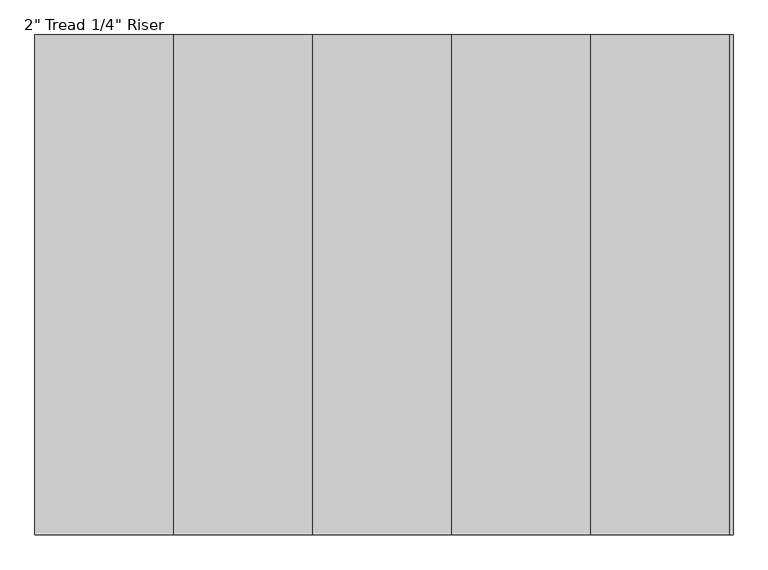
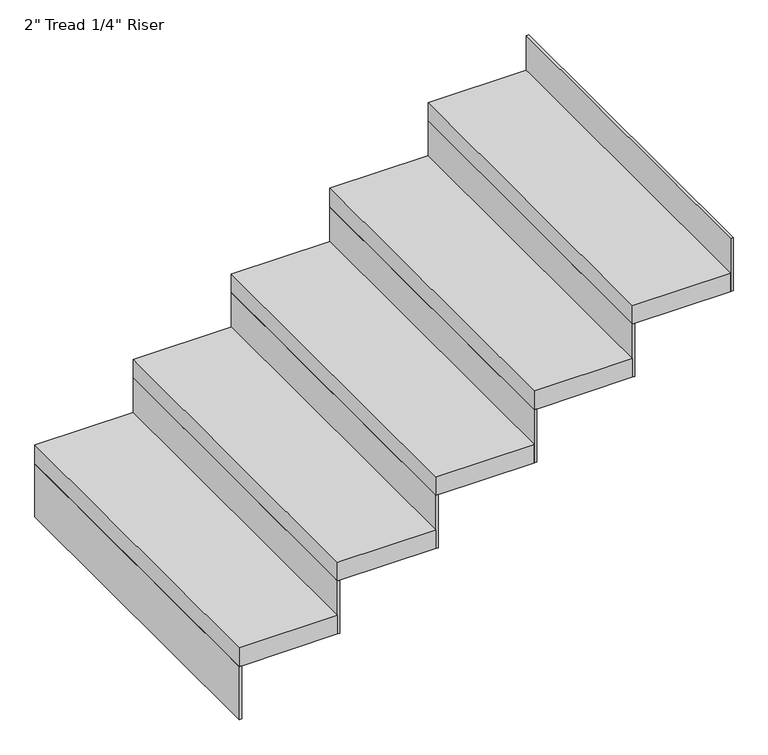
"""IFC4 building model written with IfcOpenShell, lengths in millimetres: stair flight geometry."""

from ifc_helpers import new_model, si_unit, frame, origin, place, context, project, spatial, polyline, outline, extrude, source, transform, mapped, element, save


def stair_flight_44e7a53b(model_context):
    return source(origin(), model_context, "Body", "SweptSolid", [
        extrude(outline(polyline([(162625.1811068, -2400.7855758), (162618.8311068, -2400.7855758), (162618.8311068, -1486.3855758), (162625.1811068, -1486.3855758), (162625.1811068, -2400.7855758)])), frame((0.0, 0.0, 2126.3428571), z_axis=(0.0, 0.0, 1.0), x_axis=(1.0, 0.0, 0.0)), (0.0, 0.0, 1.0), 145.1428571),
        extrude(outline(polyline([(162872.8311068, -1486.3855758), (162872.8311068, -2400.7855758), (162618.8311068, -2400.7855758), (162618.8311068, -1486.3855758), (162872.8311068, -1486.3855758)])), frame((0.0, 0.0, 2271.4857143), z_axis=(0.0, 0.0, 1.0), x_axis=(1.0, 0.0, 0.0)), (0.0, 0.0, 1.0), 50.8),
        extrude(outline(polyline([(162879.1811068, -2400.7855758), (162872.8311068, -2400.7855758), (162872.8311068, -1486.3855758), (162879.1811068, -1486.3855758), (162879.1811068, -2400.7855758)])), frame((0.0, 0.0, 2271.4857143), z_axis=(0.0, 0.0, 1.0), x_axis=(1.0, 0.0, 0.0)), (0.0, 0.0, 1.0), 145.1428571),
        extrude(outline(polyline([(163126.8311068, -1486.3855758), (163126.8311068, -2400.7855758), (162872.8311068, -2400.7855758), (162872.8311068, -1486.3855758), (163126.8311068, -1486.3855758)])), frame((0.0, 0.0, 2416.6285714), z_axis=(0.0, 0.0, 1.0), x_axis=(1.0, 0.0, 0.0)), (0.0, 0.0, 1.0), 50.8),
        extrude(outline(polyline([(163133.1811068, -2400.7855758), (163126.8311068, -2400.7855758), (163126.8311068, -1486.3855758), (163133.1811068, -1486.3855758), (163133.1811068, -2400.7855758)])), frame((0.0, 0.0, 2416.6285714), z_axis=(0.0, 0.0, 1.0), x_axis=(1.0, 0.0, 0.0)), (0.0, 0.0, 1.0), 145.1428571),
        extrude(outline(polyline([(163380.8311068, -1486.3855758), (163380.8311068, -2400.7855758), (163126.8311068, -2400.7855758), (163126.8311068, -1486.3855758), (163380.8311068, -1486.3855758)])), frame((0.0, 0.0, 2561.7714286), z_axis=(0.0, 0.0, 1.0), x_axis=(1.0, 0.0, 0.0)), (0.0, 0.0, 1.0), 50.8),
        extrude(outline(polyline([(163387.1811068, -2400.7855758), (163380.8311068, -2400.7855758), (163380.8311068, -1486.3855758), (163387.1811068, -1486.3855758), (163387.1811068, -2400.7855758)])), frame((0.0, 0.0, 2561.7714286), z_axis=(0.0, 0.0, 1.0), x_axis=(1.0, 0.0, 0.0)), (0.0, 0.0, 1.0), 145.1428571),
        extrude(outline(polyline([(163634.8311068, -1486.3855758), (163634.8311068, -2400.7855758), (163380.8311068, -2400.7855758), (163380.8311068, -1486.3855758), (163634.8311068, -1486.3855758)])), frame((0.0, 0.0, 2706.9142857), z_axis=(0.0, 0.0, 1.0), x_axis=(1.0, 0.0, 0.0)), (0.0, 0.0, 1.0), 50.8),
        extrude(outline(polyline([(163641.1811068, -2400.7855758), (163634.8311068, -2400.7855758), (163634.8311068, -1486.3855758), (163641.1811068, -1486.3855758), (163641.1811068, -2400.7855758)])), frame((0.0, 0.0, 2706.9142857), z_axis=(0.0, 0.0, 1.0), x_axis=(1.0, 0.0, 0.0)), (0.0, 0.0, 1.0), 145.1428571),
        extrude(outline(polyline([(163895.1811068, -2400.7855758), (163888.8311068, -2400.7855758), (163888.8311068, -1486.3855758), (163895.1811068, -1486.3855758), (163895.1811068, -2400.7855758)])), frame((0.0, 0.0, 2852.0571429), z_axis=(0.0, 0.0, 1.0), x_axis=(1.0, 0.0, 0.0)), (0.0, 0.0, 1.0), 145.1428571),
        extrude(outline(polyline([(163888.8311068, -1486.3855758), (163888.8311068, -2400.7855758), (163634.8311068, -2400.7855758), (163634.8311068, -1486.3855758), (163888.8311068, -1486.3855758)])), frame((0.0, 0.0, 2852.0571429), z_axis=(0.0, 0.0, 1.0), x_axis=(1.0, 0.0, 0.0)), (0.0, 0.0, 1.0), 50.8),
    ])


if __name__ == "__main__":
    model = new_model("IFC4")
    model_context = context("Model", 3, world=origin())
    ifc_project = project(units=[si_unit("LENGTHUNIT", "METRE", prefix="MILLI")], contexts=[model_context])
    site = spatial("IfcSite", under=ifc_project)
    building = spatial("IfcBuilding", under=site)
    placement = place(None, origin())
    stair_flight_shape = stair_flight_44e7a53b(model_context)
    element("IfcStairFlight", 1, ObjectType="2\" Tread 1/4\" Riser", at=placement, inside=building, context=model_context, shape_type="MappedRepresentation", body=[
        mapped(stair_flight_shape, transform((0.0, 0.0, 0.0), x_axis=(1.0, 0.0, 0.0), y_axis=(0.0, 1.0, 0.0), z_axis=(0.0, 0.0, 1.0))),
    ])
    save(model, "model.ifc")
